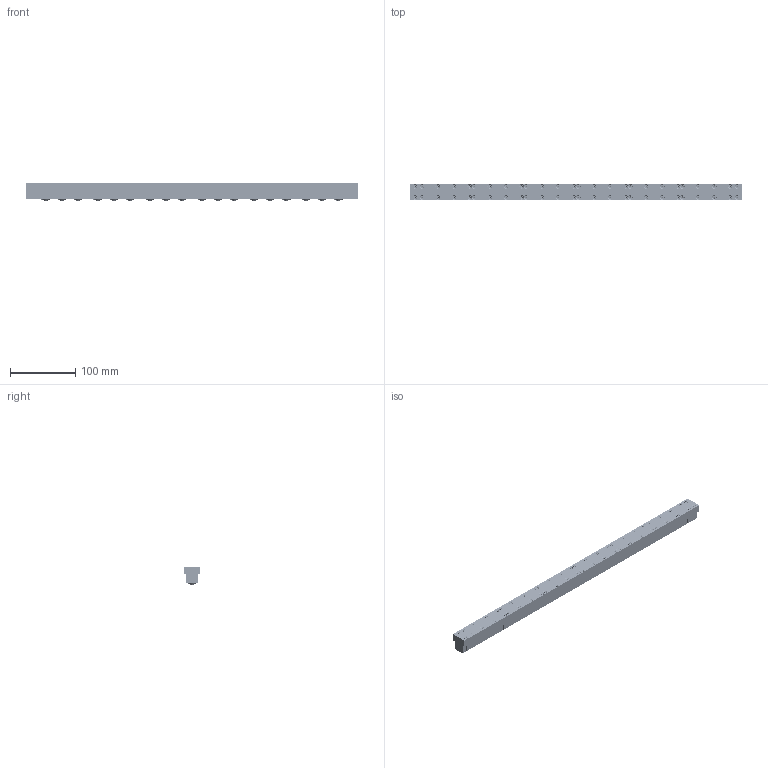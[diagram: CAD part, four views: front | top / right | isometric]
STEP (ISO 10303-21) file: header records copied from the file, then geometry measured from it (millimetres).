
FILE_DESCRIPTION(/* description */ (''),/* implementation_level */ '2;1');
FILE_NAME(/* name */ 'Z:\34-Tei\01-web 3Dデータ\43-ISR-18T\X2\578B\X0\\ISR-18T-510.stp',/* time_stamp */ '2015-01-16T10:27:29+09:00',/* author */ ('yamaki'),/* organization */ (''),/* preprocessor_version */ 'ST-DEVELOPER v15.6',/* originating_system */ 'Autodesk Inventor 2015',/* authorisation */ '');
FILE_SCHEMA (('AUTOMOTIVE_DESIGN { 1 0 10303 214 3 1 1 }'));
Length unit declared in the file: millimetre
Products named in the file (9): 4918; 4903TB; 4903CB; JIS B 1111 - Csunk M3 x 6 - H; JIS B 1176 - M3 x 10; 4903SL; A108AA; 4903PS; 4903AA
Bounding box: 510 x 25 x 28.97 mm (x, y, z)
Volume: 238934 mm3; surface area: 155700.9 mm2
Topology: 111 solids, 111 shells, 2898 faces, 7156 edges, 4594 vertices
Faces by surface type: plane 1074, cone 931, cylinder 567, torus 290, sphere 18, bspline 18
Full cylindrical faces by diameter (mm): 2 x25, 2.459 x66, 2.693 x52, 3 x66, 3.242 x18, 3.5 x66, 5.5 x66, 6.2 x7, 8 x1, 10 x18, 13.4 x18, 13.9 x18, 14 x18, 16 x18, 19.8 x18, 20 x18
Entity records: 10013 total; most frequent: CARTESIAN_POINT 1874, DIRECTION 1760, ORIENTED_EDGE 1212, AXIS2_PLACEMENT_3D 756, EDGE_LOOP 635, EDGE_CURVE 606, VERTEX_POINT 483, FACE_BOUND 322
